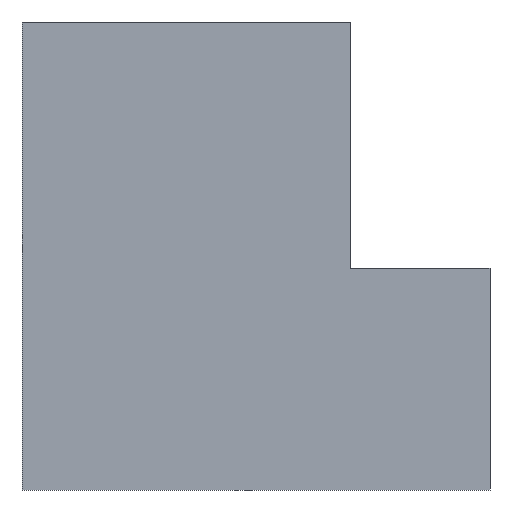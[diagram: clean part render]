
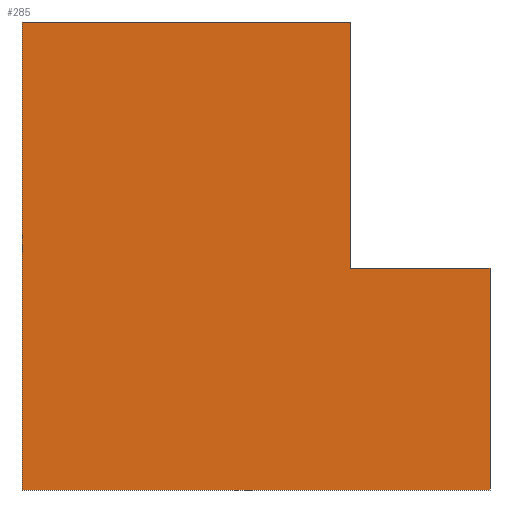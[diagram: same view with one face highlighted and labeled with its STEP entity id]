
A CAD part, front view. The second image highlights one B-rep face of the part: STEP entity #285.
In plain terms, the highlighted planar face has unit normal (0, -1, 0).
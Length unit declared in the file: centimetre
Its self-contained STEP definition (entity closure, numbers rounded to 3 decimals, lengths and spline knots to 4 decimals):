
#8 = VERTEX_POINT ( 'NONE', #117 ) ;
#9 = CARTESIAN_POINT ( 'NONE',  ( 0., 0., 0. ) ) ;
#13 = ORIENTED_EDGE ( 'NONE', *, *, #181, .F. ) ;
#34 = CARTESIAN_POINT ( 'NONE',  ( 0., 0., 0. ) ) ;
#41 = DIRECTION ( 'NONE',  ( 0., 0., -1. ) ) ;
#42 = VECTOR ( 'NONE', #464, 100. ) ;
#69 = DIRECTION ( 'NONE',  ( 1., 0., 0. ) ) ;
#76 = DIRECTION ( 'NONE',  ( 0., 0., -1. ) ) ;
#79 = EDGE_CURVE ( 'NONE', #263, #8, #175, .T. ) ;
#91 = VERTEX_POINT ( 'NONE', #360 ) ;
#103 = LINE ( 'NONE', #312, #170 ) ;
#115 = LINE ( 'NONE', #424, #520 ) ;
#117 = CARTESIAN_POINT ( 'NONE',  ( 1000., 0., 0. ) ) ;
#120 = CARTESIAN_POINT ( 'NONE',  ( 1000., 0., 473.8854 ) ) ;
#128 = VECTOR ( 'NONE', #76, 100. ) ;
#135 = VECTOR ( 'NONE', #344, 100. ) ;
#153 = VERTEX_POINT ( 'NONE', #367 ) ;
#154 = CARTESIAN_POINT ( 'NONE',  ( 0., 0., 1000. ) ) ;
#155 = ORIENTED_EDGE ( 'NONE', *, *, #354, .F. ) ;
#158 = CARTESIAN_POINT ( 'NONE',  ( 0., 0., 1000. ) ) ;
#170 = VECTOR ( 'NONE', #69, 100. ) ;
#175 = LINE ( 'NONE', #9, #135 ) ;
#181 = EDGE_CURVE ( 'NONE', #350, #376, #103, .T. ) ;
#199 = EDGE_CURVE ( 'NONE', #153, #350, #226, .T. ) ;
#226 = LINE ( 'NONE', #357, #258 ) ;
#236 = EDGE_CURVE ( 'NONE', #91, #263, #281, .T. ) ;
#258 = VECTOR ( 'NONE', #308, 100. ) ;
#263 = VERTEX_POINT ( 'NONE', #34 ) ;
#278 = DIRECTION ( 'NONE',  ( 0., 0., 1. ) ) ;
#281 = LINE ( 'NONE', #158, #128 ) ;
#283 = PLANE ( 'NONE',  #351 ) ;
#285 = ADVANCED_FACE ( 'NONE', ( #379 ), #283, .F. ) ;
#308 = DIRECTION ( 'NONE',  ( 0., 0., -1. ) ) ;
#312 = CARTESIAN_POINT ( 'NONE',  ( 702.6195, 0., 473.8854 ) ) ;
#338 = EDGE_CURVE ( 'NONE', #376, #8, #115, .T. ) ;
#344 = DIRECTION ( 'NONE',  ( 1., 0., 0. ) ) ;
#350 = VERTEX_POINT ( 'NONE', #372 ) ;
#351 = AXIS2_PLACEMENT_3D ( 'NONE', #505, #469, #278 ) ;
#354 = EDGE_CURVE ( 'NONE', #91, #153, #552, .T. ) ;
#357 = CARTESIAN_POINT ( 'NONE',  ( 702.6195, 0., 473.8854 ) ) ;
#360 = CARTESIAN_POINT ( 'NONE',  ( 0., 0., 1000. ) ) ;
#367 = CARTESIAN_POINT ( 'NONE',  ( 702.6195, 0., 1000. ) ) ;
#372 = CARTESIAN_POINT ( 'NONE',  ( 702.6195, 0., 473.8854 ) ) ;
#376 = VERTEX_POINT ( 'NONE', #120 ) ;
#379 = FACE_OUTER_BOUND ( 'NONE', #511, .T. ) ;
#424 = CARTESIAN_POINT ( 'NONE',  ( 1000., 0., 1000. ) ) ;
#462 = ORIENTED_EDGE ( 'NONE', *, *, #199, .F. ) ;
#464 = DIRECTION ( 'NONE',  ( 1., 0., 0. ) ) ;
#469 = DIRECTION ( 'NONE',  ( 0., 1., 0. ) ) ;
#484 = ORIENTED_EDGE ( 'NONE', *, *, #338, .F. ) ;
#505 = CARTESIAN_POINT ( 'NONE',  ( 0., 0., 1000. ) ) ;
#506 = ORIENTED_EDGE ( 'NONE', *, *, #236, .T. ) ;
#511 = EDGE_LOOP ( 'NONE', ( #13, #462, #155, #506, #531, #484 ) ) ;
#520 = VECTOR ( 'NONE', #41, 100. ) ;
#531 = ORIENTED_EDGE ( 'NONE', *, *, #79, .T. ) ;
#552 = LINE ( 'NONE', #154, #42 ) ;
